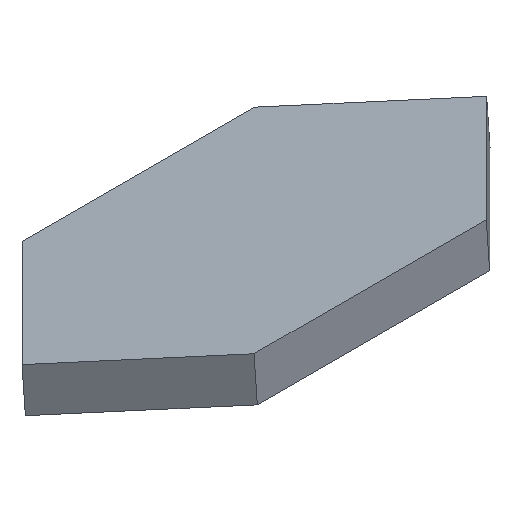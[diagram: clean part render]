
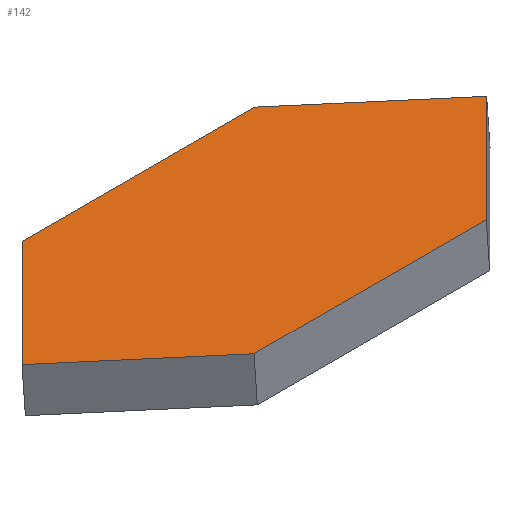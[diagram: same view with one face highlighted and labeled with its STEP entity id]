
A CAD part, isometric view. The second image highlights one B-rep face of the part: STEP entity #142.
In plain terms, the highlighted planar face has unit normal (0, 0.079, 0.997).
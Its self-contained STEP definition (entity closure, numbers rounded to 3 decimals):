
#16=FACE_OUTER_BOUND('',#24,.T.);
#24=EDGE_LOOP('',(#101,#102,#103,#104,#105,#106));
#33=LINE('',#215,#51);
#35=LINE('',#219,#53);
#36=LINE('',#221,#54);
#37=LINE('',#223,#55);
#38=LINE('',#225,#56);
#39=LINE('',#226,#57);
#51=VECTOR('',#177,10.);
#53=VECTOR('',#181,10.);
#54=VECTOR('',#182,10.);
#55=VECTOR('',#183,10.);
#56=VECTOR('',#184,10.);
#57=VECTOR('',#185,10.);
#69=VERTEX_POINT('',#212);
#70=VERTEX_POINT('',#214);
#71=VERTEX_POINT('',#218);
#72=VERTEX_POINT('',#220);
#73=VERTEX_POINT('',#222);
#74=VERTEX_POINT('',#224);
#81=EDGE_CURVE('',#69,#70,#33,.T.);
#83=EDGE_CURVE('',#71,#69,#35,.T.);
#84=EDGE_CURVE('',#71,#72,#36,.T.);
#85=EDGE_CURVE('',#73,#72,#37,.T.);
#86=EDGE_CURVE('',#74,#73,#38,.T.);
#87=EDGE_CURVE('',#74,#70,#39,.T.);
#101=ORIENTED_EDGE('',*,*,#81,.F.);
#102=ORIENTED_EDGE('',*,*,#83,.F.);
#103=ORIENTED_EDGE('',*,*,#84,.T.);
#104=ORIENTED_EDGE('',*,*,#85,.F.);
#105=ORIENTED_EDGE('',*,*,#86,.F.);
#106=ORIENTED_EDGE('',*,*,#87,.T.);
#134=PLANE('',#164);
#142=ADVANCED_FACE('',(#16),#134,.T.);
#164=AXIS2_PLACEMENT_3D('',#217,#179,#180);
#177=DIRECTION('',(0.707,0.705,-0.056));
#179=DIRECTION('center_axis',(0.,0.079,0.997));
#180=DIRECTION('ref_axis',(0.,0.997,-0.079));
#181=DIRECTION('',(-0.707,0.705,-0.056));
#182=DIRECTION('',(1.,0.,0.));
#183=DIRECTION('',(-0.707,-0.705,0.056));
#184=DIRECTION('',(0.707,-0.705,0.056));
#185=DIRECTION('',(-1.,0.,0.));
#212=CARTESIAN_POINT('',(37.245,-67.563,26.638));
#214=CARTESIAN_POINT('',(42.145,-62.679,26.251));
#215=CARTESIAN_POINT('',(39.695,-65.121,26.444));
#217=CARTESIAN_POINT('Origin',(47.045,-72.448,27.026));
#218=CARTESIAN_POINT('',(42.145,-72.448,27.026));
#219=CARTESIAN_POINT('',(42.145,-72.448,27.026));
#220=CARTESIAN_POINT('',(51.945,-72.448,27.026));
#221=CARTESIAN_POINT('',(47.045,-72.448,27.026));
#222=CARTESIAN_POINT('',(56.845,-67.563,26.638));
#223=CARTESIAN_POINT('',(51.945,-72.448,27.026));
#224=CARTESIAN_POINT('',(51.945,-62.679,26.251));
#225=CARTESIAN_POINT('',(54.395,-65.121,26.444));
#226=CARTESIAN_POINT('',(47.045,-62.679,26.251));
